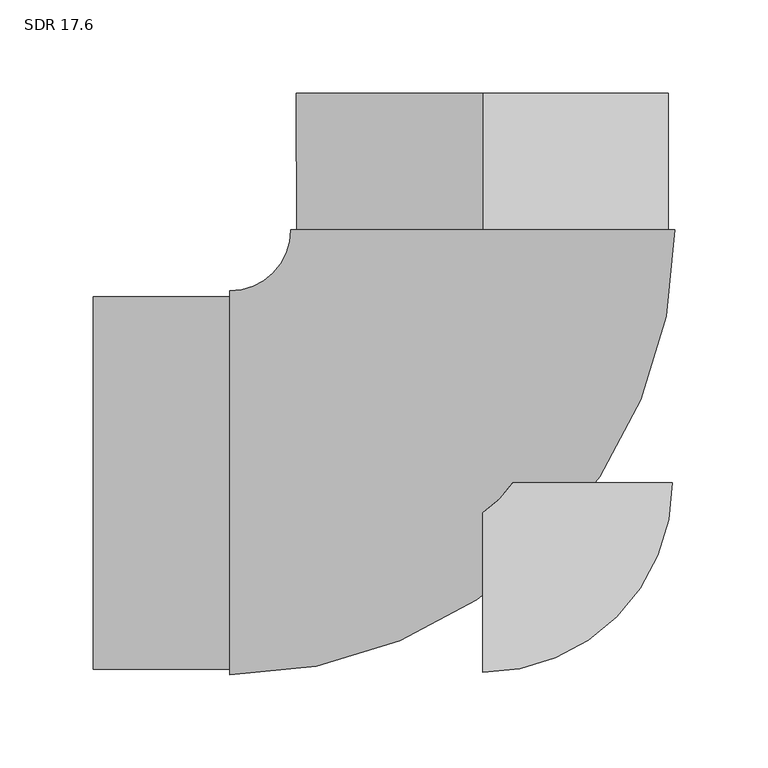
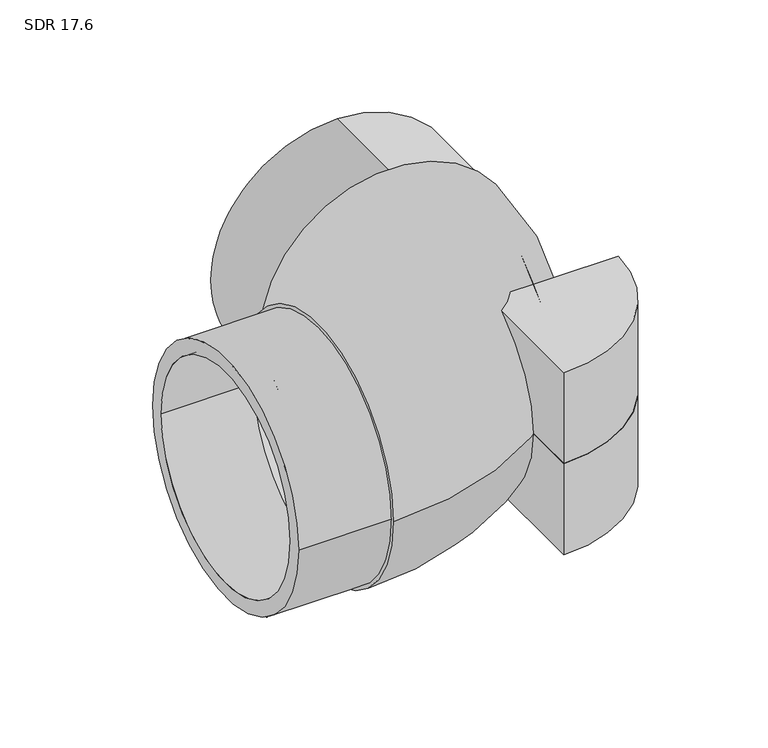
"""IFC4 building model written with IfcOpenShell, lengths in millimetres: pipe fitting geometry, Aquatherm - Elbow BW Molded : SDR 17.6."""

from ifc_helpers import new_model, si_unit, point, frame, frame_2d, origin, origin_with_axes, origin_2d, place, context, project, spatial, polyline, circle_curve, ellipse_curve, trimmed, segment, composite_curve, outline, extrude, source, transform, mapped, element, save
from ifc_brep_helpers import plane_surface, revolved_surface, advanced_brep


def sdr_17_6_749c5dbc(model_context):
    return source(origin(), model_context, "Body", "SolidModel", [
        extrude(outline(composite_curve([segment(polyline([(0.0, -101.6), (0.0, 0.0), (101.5999995, 0.0100018)]), True, "CONTINUOUS"), segment(trimmed(circle_curve(origin_2d(), 101.6), [point((101.5999995, 0.0100018))], [point((0.0, -101.6))], False, "CARTESIAN"), True, "CONTINUOUS")], self_intersect=False)), frame((0.0, 0.0, -76.2), z_axis=(0.0, 0.0, 1.0), x_axis=(1.0, 0.0, 0.0)), (0.0, 0.0, 1.0), 76.2),
        extrude(outline(composite_curve([segment(trimmed(circle_curve(origin_2d(), 101.6), [point((101.5999995, 0.0100018))], [point((0.0, -101.6))], False, "CARTESIAN"), True, "CONTINUOUS"), segment(polyline([(0.0, -101.6), (0.0, 0.0), (101.5999995, 0.0100018)]), True, "CONTINUOUS")], self_intersect=False)), origin_with_axes(), (0.0, 0.0, 1.0), 76.2),
        extrude(outline(composite_curve([segment(trimmed(circle_curve(frame_2d((0.0, -99.949)), 99.949), [point((0.0, -199.898))], [point((0.0, 0.0))], False, "CARTESIAN"), True, "CONTINUOUS"), segment(trimmed(circle_curve(frame_2d((0.0, -99.949)), 99.949), [point((0.0, 0.0))], [point((0.0, -199.898))], False, "CARTESIAN"), True, "CONTINUOUS")], self_intersect=False), holes=[composite_curve([segment(trimmed(circle_curve(frame_2d((0.0, -99.949)), 88.1902941), [point((0.0, -188.1392941))], [point((0.0, -11.7587059))], True, "CARTESIAN"), True, "CONTINUOUS"), segment(trimmed(circle_curve(frame_2d((0.0, -99.949)), 88.1902941), [point((0.0, -11.7587059))], [point((0.0, -188.1392941))], True, "CARTESIAN"), True, "CONTINUOUS")], self_intersect=False)]), frame((-0.0133761, 135.8772993, 99.949), z_axis=(-9.844258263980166e-05, 0.999999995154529, 0.0), x_axis=(-0.999999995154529, -9.844258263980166e-05, 0.0)), (0.0, 0.0, 1.0), 73.1647),
        extrude(outline(composite_curve([segment(trimmed(circle_curve(frame_2d((-0.1496481, 0.0)), 99.949), [point((99.7993519, 0.0))], [point((-100.0986481, 0.0))], False, "CARTESIAN"), True, "CONTINUOUS"), segment(trimmed(circle_curve(frame_2d((-0.1496481, 0.0)), 99.949), [point((-100.0986481, 0.0))], [point((99.7993519, 0.0))], False, "CARTESIAN"), True, "CONTINUOUS")], self_intersect=False), holes=[composite_curve([segment(trimmed(circle_curve(origin_2d(), 88.1902941), [point((88.1902941, 0.0))], [point((-88.1902941, 0.0))], True, "CARTESIAN"), True, "CONTINUOUS"), segment(trimmed(circle_curve(origin_2d(), 88.1902941), [point((-88.1902941, 0.0))], [point((88.1902941, 0.0))], True, "CARTESIAN"), True, "CONTINUOUS")], self_intersect=False)]), frame((-209.042, 0.0, 0.0), z_axis=(1.0, 0.0, 0.0), x_axis=(0.0, 1.0, 0.0)), (0.0, 0.0, 1.0), 73.1647),
        advanced_brep(
        [(-135.8773, -102.94747, 0.0), (-135.8773, 102.94747, 0.0), (-135.8773, -88.1902941, 0.0), (-135.8773, 88.1902941, 0.0), (102.9340934, 135.8874338, 0.0), (-102.9608456, 135.8671649, 0.0), (88.1769176, 135.885981, 0.0), (-88.2036698, 135.8686177, 0.0)],
        [
            (0, 1, circle_curve(frame((-135.8773, 0.0, 0.0), z_axis=(-1.0, 0.0, 0.0), x_axis=(0.0, 1.0, 0.0)), 102.94747)),
            (1, 0, circle_curve(frame((-135.8773, 0.0, 0.0), z_axis=(-1.0, 0.0, 0.0), x_axis=(0.0, 1.0, 0.0)), 102.94747)),
            (2, 3, circle_curve(frame((-135.8773, 0.0, 0.0), z_axis=(1.0, 0.0, 0.0), x_axis=(0.0, 1.0, 0.0)), 88.1902941)),
            (3, 2, circle_curve(frame((-135.8773, 0.0, 0.0), z_axis=(1.0, 0.0, 0.0), x_axis=(0.0, 1.0, 0.0)), 88.1902941)),
            (4, 5, circle_curve(frame((-0.0133761, 135.8772993, 0.0), z_axis=(-9.844258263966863e-05, 0.999999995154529, 0.0), x_axis=(-0.999999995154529, -9.844258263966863e-05, 0.0)), 102.94747)),
            (5, 4, circle_curve(frame((-0.0133761, 135.8772993, 0.0), z_axis=(-9.844258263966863e-05, 0.999999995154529, 0.0), x_axis=(-0.999999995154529, -9.844258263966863e-05, 0.0)), 102.94747)),
            (6, 7, circle_curve(frame((-0.0133761, 135.8772993, 0.0), z_axis=(9.844258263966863e-05, -0.999999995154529, 0.0), x_axis=(-0.999999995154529, -9.844258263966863e-05, 0.0)), 88.1902941)),
            (7, 6, circle_curve(frame((-0.0133761, 135.8772993, 0.0), z_axis=(9.844258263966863e-05, -0.999999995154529, 0.0), x_axis=(-0.999999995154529, -9.844258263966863e-05, 0.0)), 88.1902941)),
            (5, 1, circle_curve(frame((-135.8773, 135.8639245, 0.0), z_axis=(0.0, 0.0, -1.0), x_axis=(0.0, -1.0, 0.0)), 32.9164545)),
            (0, 4, circle_curve(frame((-135.8773, 135.8639245, 0.0), z_axis=(0.0, 0.0, 1.0), x_axis=(0.0, -1.0, 0.0)), 238.8113945)),
            (7, 3, circle_curve(frame((-135.8773, 135.8639245, 0.0), z_axis=(0.0, 0.0, -1.0), x_axis=(0.0, -1.0, 0.0)), 47.6736304)),
            (2, 6, circle_curve(frame((-135.8773, 135.8639245, 0.0), z_axis=(0.0, 0.0, 1.0), x_axis=(0.0, -1.0, 0.0)), 224.0542187)),
        ],
        [
            plane_surface(frame((-135.8773, 0.0, 0.0), z_axis=(-1.0, 0.0, 0.0), x_axis=(0.0, 0.0, 1.0))),
            plane_surface(frame((-0.0133761, 135.8772993, 0.0), z_axis=(-9.844258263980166e-05, 0.999999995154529, 0.0), x_axis=(0.0, 0.0, 1.0))),
            revolved_surface(trimmed(ellipse_curve(frame((-135.8773, 0.0, 0.0), z_axis=(-1.0, 0.0, 0.0), x_axis=(0.0, 1.0, 0.0)), 102.94747, 102.94747), [point((-135.8773, -102.94747, 0.0))], [point((-135.8773, 102.94747, 0.0))], True, "CARTESIAN"), (-135.8773, 135.8639245, 0.0), (0.0, 0.0, 1.0)),
            revolved_surface(trimmed(ellipse_curve(frame((-135.8773, 0.0, 0.0), z_axis=(-1.0, 0.0, 0.0), x_axis=(0.0, 1.0, 0.0)), 102.94747, 102.94747), [point((-135.8773, 102.94747, 0.0))], [point((-135.8773, -102.94747, 0.0))], True, "CARTESIAN"), (-135.8773, 135.8639245, 0.0), (0.0, 0.0, 1.0)),
            revolved_surface(trimmed(ellipse_curve(frame((-135.8773, 0.0, 0.0), z_axis=(1.0, 0.0, 0.0), x_axis=(0.0, 1.0, 0.0)), 88.1902941, 88.1902941), [point((-135.8773, -88.1902941, 0.0))], [point((-135.8773, 88.1902941, 0.0))], True, "CARTESIAN"), (-135.8773, 135.8639245, 0.0), (0.0, 0.0, 1.0)),
            revolved_surface(trimmed(ellipse_curve(frame((-135.8773, 0.0, 0.0), z_axis=(1.0, 0.0, 0.0), x_axis=(0.0, 1.0, 0.0)), 88.1902941, 88.1902941), [point((-135.8773, 88.1902941, 0.0))], [point((-135.8773, -88.1902941, 0.0))], True, "CARTESIAN"), (-135.8773, 135.8639245, 0.0), (0.0, 0.0, 1.0)),
        ],
        [
            (0, [[1, 2], [3, 4]]),
            (1, [[5, 6], [7, 8]]),
            (2, [[9, -1, 10, -6]]),
            (3, [[-10, -2, -9, -5]]),
            (4, [[11, -3, 12, -8]]),
            (5, [[-12, -4, -11, -7]]),
        ],
    ),
    ])


if __name__ == "__main__":
    model = new_model("IFC4")
    model_context = context("Model", 3, world=origin())
    ifc_project = project(units=[si_unit("LENGTHUNIT", "METRE", prefix="MILLI")], contexts=[model_context])
    site = spatial("IfcSite", under=ifc_project)
    building = spatial("IfcBuilding", under=site)
    placement = place(None, origin())
    sdr_17_6_shape = sdr_17_6_749c5dbc(model_context)
    element("IfcPipeFitting", 1, ObjectType="Aquatherm - Elbow BW Molded : SDR 17.6", at=placement, inside=building, context=model_context, shape_type="MappedRepresentation", body=[
        mapped(sdr_17_6_shape, transform((0.0, 0.0, 0.0), x_axis=(1.0, 0.0, 0.0), y_axis=(0.0, 1.0, 0.0), z_axis=(0.0, 0.0, 1.0))),
    ])
    save(model, "model.ifc")
